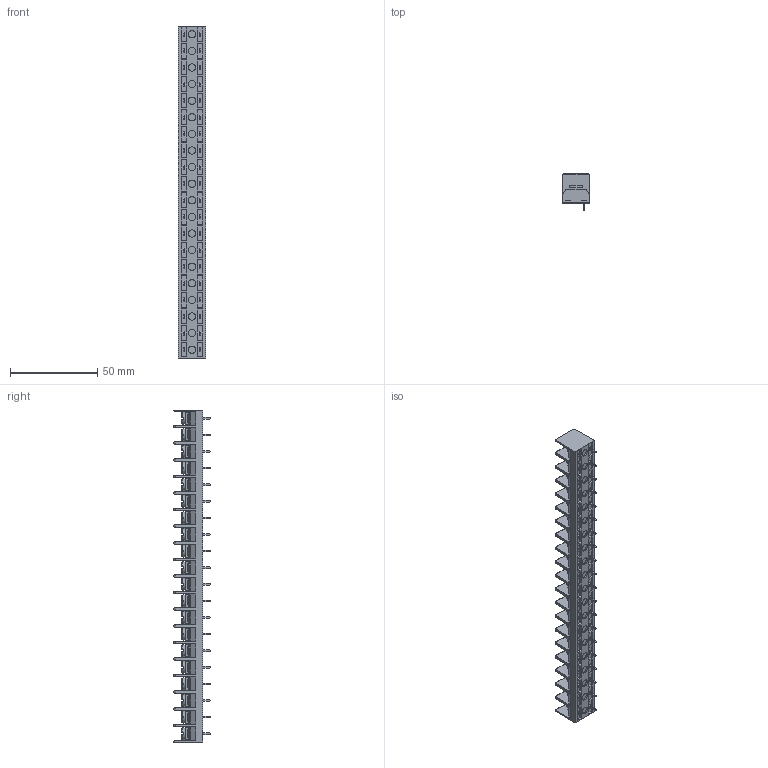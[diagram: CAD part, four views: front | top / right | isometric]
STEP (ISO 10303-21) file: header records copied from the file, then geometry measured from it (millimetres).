
FILE_DESCRIPTION (( 'STEP AP214' ), '1' );
FILE_NAME ('982-S-20.STEP', '2007-12-16T03:49:03', ( ' ' ), ( '' ), 'SwSTEP 2.0', 'SolidWorks 2007', '' );
FILE_SCHEMA (( 'AUTOMOTIVE_DESIGN' ));
Length unit declared in the file: millimetre
Products named in the file (1): 982-S-20
Bounding box: 16 x 20.7 x 190.38 mm (x, y, z)
Volume: 28721.9 mm3; surface area: 22600 mm2
Topology: 1 solids, 1 shells, 1948 faces, 5298 edges, 3472 vertices
Faces by surface type: plane 1326, cylinder 402, bspline 180, cone 40
Entity records: 69363 total; most frequent: CARTESIAN_POINT 22033, ORIENTED_EDGE 10596, DIRECTION 8640, EDGE_CURVE 5298, LINE 3574, VECTOR 3574, VERTEX_POINT 3472, AXIS2_PLACEMENT_3D 2533
